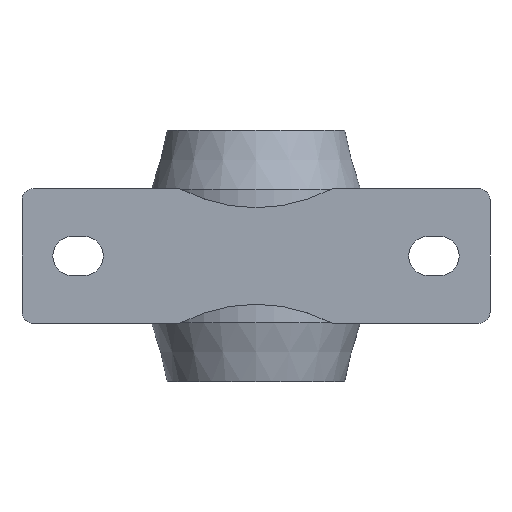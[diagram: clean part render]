
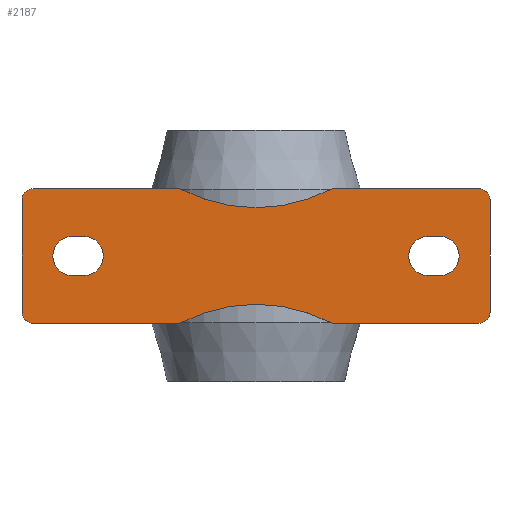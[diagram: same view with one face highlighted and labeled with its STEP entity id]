
A CAD part, front view. The second image highlights one B-rep face of the part: STEP entity #2187.
In plain terms, the highlighted planar face has unit normal (0, -1, 0).
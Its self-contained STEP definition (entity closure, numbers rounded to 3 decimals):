
#102=FACE_BOUND('',#318,.T.);
#103=FACE_BOUND('',#319,.T.);
#128=PLANE('',#2441);
#191=FACE_OUTER_BOUND('',#317,.T.);
#317=EDGE_LOOP('',(#1423,#1424,#1425,#1426,#1427,#1428,#1429,#1430,#1431,
#1432,#1433,#1434));
#318=EDGE_LOOP('',(#1435,#1436,#1437,#1438));
#319=EDGE_LOOP('',(#1439,#1440,#1441,#1442));
#503=LINE('',#3403,#636);
#504=LINE('',#3407,#637);
#505=LINE('',#3411,#638);
#506=LINE('',#3415,#639);
#507=LINE('',#3419,#640);
#508=LINE('',#3422,#641);
#509=LINE('',#3427,#642);
#510=LINE('',#3430,#643);
#511=LINE('',#3435,#644);
#512=LINE('',#3438,#645);
#636=VECTOR('',#2712,10.);
#637=VECTOR('',#2715,10.);
#638=VECTOR('',#2718,10.);
#639=VECTOR('',#2721,10.);
#640=VECTOR('',#2724,10.);
#641=VECTOR('',#2727,10.);
#642=VECTOR('',#2730,10.);
#643=VECTOR('',#2733,10.);
#644=VECTOR('',#2736,10.);
#645=VECTOR('',#2739,10.);
#770=CIRCLE('',#2442,4.);
#771=CIRCLE('',#2443,58.);
#772=CIRCLE('',#2444,4.);
#773=CIRCLE('',#2445,4.);
#774=CIRCLE('',#2446,58.);
#775=CIRCLE('',#2447,4.);
#776=CIRCLE('',#2448,7.);
#777=CIRCLE('',#2449,7.);
#778=CIRCLE('',#2450,7.);
#779=CIRCLE('',#2451,7.);
#891=VERTEX_POINT('',#3399);
#892=VERTEX_POINT('',#3400);
#893=VERTEX_POINT('',#3402);
#894=VERTEX_POINT('',#3404);
#895=VERTEX_POINT('',#3406);
#896=VERTEX_POINT('',#3408);
#897=VERTEX_POINT('',#3410);
#898=VERTEX_POINT('',#3412);
#899=VERTEX_POINT('',#3414);
#900=VERTEX_POINT('',#3416);
#901=VERTEX_POINT('',#3418);
#902=VERTEX_POINT('',#3420);
#903=VERTEX_POINT('',#3423);
#904=VERTEX_POINT('',#3424);
#905=VERTEX_POINT('',#3426);
#906=VERTEX_POINT('',#3428);
#907=VERTEX_POINT('',#3431);
#908=VERTEX_POINT('',#3432);
#909=VERTEX_POINT('',#3434);
#910=VERTEX_POINT('',#3436);
#1106=EDGE_CURVE('',#891,#892,#770,.T.);
#1107=EDGE_CURVE('',#891,#893,#503,.T.);
#1108=EDGE_CURVE('',#893,#894,#771,.T.);
#1109=EDGE_CURVE('',#894,#895,#504,.T.);
#1110=EDGE_CURVE('',#896,#895,#772,.T.);
#1111=EDGE_CURVE('',#896,#897,#505,.T.);
#1112=EDGE_CURVE('',#898,#897,#773,.T.);
#1113=EDGE_CURVE('',#899,#898,#506,.T.);
#1114=EDGE_CURVE('',#899,#900,#774,.T.);
#1115=EDGE_CURVE('',#901,#900,#507,.T.);
#1116=EDGE_CURVE('',#902,#901,#775,.T.);
#1117=EDGE_CURVE('',#902,#892,#508,.T.);
#1118=EDGE_CURVE('',#903,#904,#776,.T.);
#1119=EDGE_CURVE('',#904,#905,#509,.T.);
#1120=EDGE_CURVE('',#905,#906,#777,.T.);
#1121=EDGE_CURVE('',#906,#903,#510,.T.);
#1122=EDGE_CURVE('',#907,#908,#778,.T.);
#1123=EDGE_CURVE('',#908,#909,#511,.T.);
#1124=EDGE_CURVE('',#909,#910,#779,.T.);
#1125=EDGE_CURVE('',#910,#907,#512,.T.);
#1423=ORIENTED_EDGE('',*,*,#1106,.F.);
#1424=ORIENTED_EDGE('',*,*,#1107,.T.);
#1425=ORIENTED_EDGE('',*,*,#1108,.T.);
#1426=ORIENTED_EDGE('',*,*,#1109,.T.);
#1427=ORIENTED_EDGE('',*,*,#1110,.F.);
#1428=ORIENTED_EDGE('',*,*,#1111,.T.);
#1429=ORIENTED_EDGE('',*,*,#1112,.F.);
#1430=ORIENTED_EDGE('',*,*,#1113,.F.);
#1431=ORIENTED_EDGE('',*,*,#1114,.T.);
#1432=ORIENTED_EDGE('',*,*,#1115,.F.);
#1433=ORIENTED_EDGE('',*,*,#1116,.F.);
#1434=ORIENTED_EDGE('',*,*,#1117,.T.);
#1435=ORIENTED_EDGE('',*,*,#1118,.T.);
#1436=ORIENTED_EDGE('',*,*,#1119,.T.);
#1437=ORIENTED_EDGE('',*,*,#1120,.T.);
#1438=ORIENTED_EDGE('',*,*,#1121,.T.);
#1439=ORIENTED_EDGE('',*,*,#1122,.T.);
#1440=ORIENTED_EDGE('',*,*,#1123,.T.);
#1441=ORIENTED_EDGE('',*,*,#1124,.T.);
#1442=ORIENTED_EDGE('',*,*,#1125,.T.);
#2187=ADVANCED_FACE('',(#191,#102,#103),#128,.F.);
#2441=AXIS2_PLACEMENT_3D('',#3398,#2708,#2709);
#2442=AXIS2_PLACEMENT_3D('',#3401,#2710,#2711);
#2443=AXIS2_PLACEMENT_3D('',#3405,#2713,#2714);
#2444=AXIS2_PLACEMENT_3D('',#3409,#2716,#2717);
#2445=AXIS2_PLACEMENT_3D('',#3413,#2719,#2720);
#2446=AXIS2_PLACEMENT_3D('',#3417,#2722,#2723);
#2447=AXIS2_PLACEMENT_3D('',#3421,#2725,#2726);
#2448=AXIS2_PLACEMENT_3D('',#3425,#2728,#2729);
#2449=AXIS2_PLACEMENT_3D('',#3429,#2731,#2732);
#2450=AXIS2_PLACEMENT_3D('',#3433,#2734,#2735);
#2451=AXIS2_PLACEMENT_3D('',#3437,#2737,#2738);
#2708=DIRECTION('center_axis',(0.,1.,0.));
#2709=DIRECTION('ref_axis',(0.,0.,1.));
#2710=DIRECTION('center_axis',(0.,1.,0.));
#2711=DIRECTION('ref_axis',(-0.707,0.,-0.707));
#2712=DIRECTION('',(1.,0.,0.));
#2713=DIRECTION('center_axis',(0.,1.,0.));
#2714=DIRECTION('ref_axis',(1.,0.,0.));
#2715=DIRECTION('',(1.,0.,0.));
#2716=DIRECTION('center_axis',(0.,1.,0.));
#2717=DIRECTION('ref_axis',(0.707,0.,-0.707));
#2718=DIRECTION('',(0.,0.,1.));
#2719=DIRECTION('center_axis',(0.,1.,0.));
#2720=DIRECTION('ref_axis',(0.707,0.,0.707));
#2721=DIRECTION('',(1.,0.,0.));
#2722=DIRECTION('center_axis',(0.,1.,0.));
#2723=DIRECTION('ref_axis',(1.,0.,0.));
#2724=DIRECTION('',(1.,0.,0.));
#2725=DIRECTION('center_axis',(0.,1.,0.));
#2726=DIRECTION('ref_axis',(-0.707,0.,0.707));
#2727=DIRECTION('',(0.,0.,-1.));
#2728=DIRECTION('center_axis',(0.,1.,0.));
#2729=DIRECTION('ref_axis',(0.,0.,1.));
#2730=DIRECTION('',(1.,0.,0.));
#2731=DIRECTION('center_axis',(0.,1.,0.));
#2732=DIRECTION('ref_axis',(0.,0.,-1.));
#2733=DIRECTION('',(-1.,0.,0.));
#2734=DIRECTION('center_axis',(0.,1.,0.));
#2735=DIRECTION('ref_axis',(0.,0.,1.));
#2736=DIRECTION('',(-1.,0.,0.));
#2737=DIRECTION('center_axis',(0.,1.,0.));
#2738=DIRECTION('ref_axis',(0.,0.,-1.));
#2739=DIRECTION('',(1.,0.,0.));
#3398=CARTESIAN_POINT('Origin',(-46.4,-47.6,0.));
#3399=CARTESIAN_POINT('',(-79.5,-47.6,-24.));
#3400=CARTESIAN_POINT('',(-83.5,-47.6,-20.));
#3401=CARTESIAN_POINT('Origin',(-79.5,-47.6,-20.));
#3402=CARTESIAN_POINT('',(-27.156,-47.6,-24.));
#3403=CARTESIAN_POINT('',(-83.5,-47.6,-24.));
#3404=CARTESIAN_POINT('',(27.156,-47.6,-24.));
#3405=CARTESIAN_POINT('Origin',(0.,-47.6,-75.25));
#3406=CARTESIAN_POINT('',(79.5,-47.6,-24.));
#3407=CARTESIAN_POINT('',(-83.5,-47.6,-24.));
#3408=CARTESIAN_POINT('',(83.5,-47.6,-20.));
#3409=CARTESIAN_POINT('Origin',(79.5,-47.6,-20.));
#3410=CARTESIAN_POINT('',(83.5,-47.6,20.));
#3411=CARTESIAN_POINT('',(83.5,-47.6,0.));
#3412=CARTESIAN_POINT('',(79.5,-47.6,24.));
#3413=CARTESIAN_POINT('Origin',(79.5,-47.6,20.));
#3414=CARTESIAN_POINT('',(27.156,-47.6,24.));
#3415=CARTESIAN_POINT('',(-10.,-47.6,24.));
#3416=CARTESIAN_POINT('',(-27.156,-47.6,24.));
#3417=CARTESIAN_POINT('Origin',(0.,-47.6,75.25));
#3418=CARTESIAN_POINT('',(-79.5,-47.6,24.));
#3419=CARTESIAN_POINT('',(-10.,-47.6,24.));
#3420=CARTESIAN_POINT('',(-83.5,-47.6,20.));
#3421=CARTESIAN_POINT('Origin',(-79.5,-47.6,20.));
#3422=CARTESIAN_POINT('',(-83.5,-47.6,0.));
#3423=CARTESIAN_POINT('',(61.5,-47.6,-7.));
#3424=CARTESIAN_POINT('',(61.5,-47.6,7.));
#3425=CARTESIAN_POINT('Origin',(61.5,-47.6,0.));
#3426=CARTESIAN_POINT('',(65.5,-47.6,7.));
#3427=CARTESIAN_POINT('',(9.55,-47.6,7.));
#3428=CARTESIAN_POINT('',(65.5,-47.6,-7.));
#3429=CARTESIAN_POINT('Origin',(65.5,-47.6,0.));
#3430=CARTESIAN_POINT('',(7.55,-47.6,-7.));
#3431=CARTESIAN_POINT('',(-61.5,-47.6,7.));
#3432=CARTESIAN_POINT('',(-61.5,-47.6,-7.));
#3433=CARTESIAN_POINT('Origin',(-61.5,-47.6,0.));
#3434=CARTESIAN_POINT('',(-65.5,-47.6,-7.));
#3435=CARTESIAN_POINT('',(-55.95,-47.6,-7.));
#3436=CARTESIAN_POINT('',(-65.5,-47.6,7.));
#3437=CARTESIAN_POINT('Origin',(-65.5,-47.6,0.));
#3438=CARTESIAN_POINT('',(-53.95,-47.6,7.));
